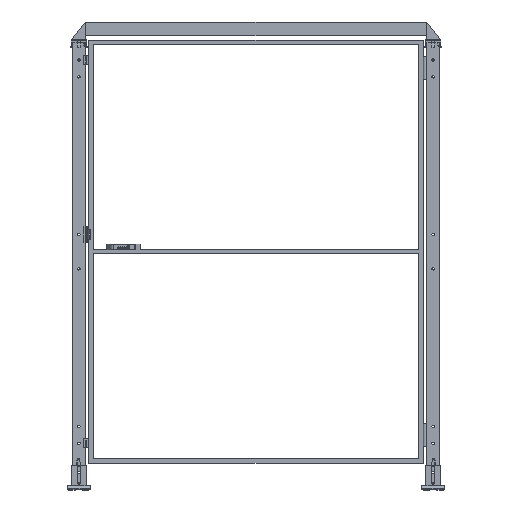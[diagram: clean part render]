
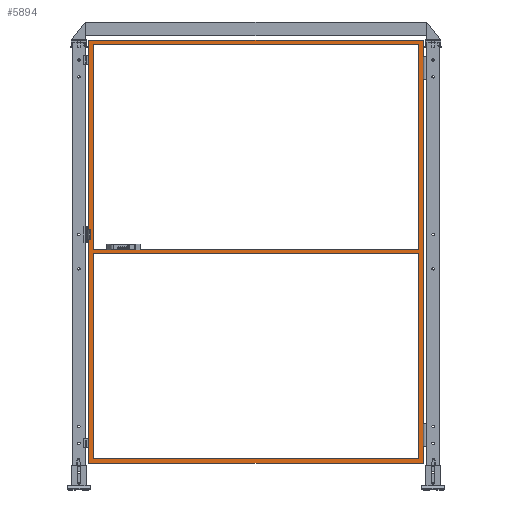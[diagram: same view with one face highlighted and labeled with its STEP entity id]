
A CAD part, top view. The second image highlights one B-rep face of the part: STEP entity #5894.
In plain terms, the highlighted planar face has unit normal (0, 0, 1).
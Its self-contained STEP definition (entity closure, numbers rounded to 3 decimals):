
#5894=ADVANCED_FACE('',(#12068,#12069,#12070),#12071,.F.);
#12068=FACE_BOUND('',#19807,.T.);
#12069=FACE_OUTER_BOUND('',#19808,.T.);
#12070=FACE_BOUND('',#19809,.T.);
#12071=PLANE('',#19810);
#19807=EDGE_LOOP('',(#37257,#37258,#37259,#37260));
#19808=EDGE_LOOP('',(#37261,#37262,#37263,#37264));
#19809=EDGE_LOOP('',(#37265,#37266,#37267,#37268));
#19810=AXIS2_PLACEMENT_3D('',#37269,#37270,#37271);
#37257=ORIENTED_EDGE('',*,*,#44399,.F.);
#37258=ORIENTED_EDGE('',*,*,#44405,.T.);
#37259=ORIENTED_EDGE('',*,*,#44427,.T.);
#37260=ORIENTED_EDGE('',*,*,#44432,.F.);
#37261=ORIENTED_EDGE('',*,*,#44443,.F.);
#37262=ORIENTED_EDGE('',*,*,#44437,.F.);
#37263=ORIENTED_EDGE('',*,*,#44407,.F.);
#37264=ORIENTED_EDGE('',*,*,#44441,.F.);
#37265=ORIENTED_EDGE('',*,*,#44429,.F.);
#37266=ORIENTED_EDGE('',*,*,#44424,.F.);
#37267=ORIENTED_EDGE('',*,*,#44435,.T.);
#37268=ORIENTED_EDGE('',*,*,#44444,.T.);
#37269=CARTESIAN_POINT('',(765.0,130.0,10.0));
#37270=DIRECTION('',(0.,0.0,-1.0));
#37271=DIRECTION('',(-1.0,0.0,0.));
#44399=EDGE_CURVE('',#54881,#54884,#54885,.T.);
#44405=EDGE_CURVE('',#54881,#54892,#54894,.T.);
#44407=EDGE_CURVE('',#54896,#54897,#54898,.T.);
#44424=EDGE_CURVE('',#54924,#54922,#54926,.T.);
#44427=EDGE_CURVE('',#54892,#54928,#54930,.T.);
#44429=EDGE_CURVE('',#54922,#54932,#54933,.T.);
#44432=EDGE_CURVE('',#54884,#54928,#54936,.T.);
#44435=EDGE_CURVE('',#54924,#54938,#54940,.T.);
#44437=EDGE_CURVE('',#54897,#54942,#54943,.T.);
#44441=EDGE_CURVE('',#54946,#54896,#54948,.T.);
#44443=EDGE_CURVE('',#54942,#54946,#54950,.T.);
#44444=EDGE_CURVE('',#54938,#54932,#54951,.T.);
#54881=VERTEX_POINT('',#70715);
#54884=VERTEX_POINT('',#70719);
#54885=LINE('',#70720,#70721);
#54892=VERTEX_POINT('',#70731);
#54894=LINE('',#70734,#70735);
#54896=VERTEX_POINT('',#70737);
#54897=VERTEX_POINT('',#70738);
#54898=LINE('',#70739,#70740);
#54922=VERTEX_POINT('',#70776);
#54924=VERTEX_POINT('',#70779);
#54926=LINE('',#70782,#70783);
#54928=VERTEX_POINT('',#70785);
#54930=LINE('',#70788,#70789);
#54932=VERTEX_POINT('',#70791);
#54933=LINE('',#70792,#70793);
#54936=LINE('',#70797,#70798);
#54938=VERTEX_POINT('',#70800);
#54940=LINE('',#70803,#70804);
#54942=VERTEX_POINT('',#70806);
#54943=LINE('',#70807,#70808);
#54946=VERTEX_POINT('',#70812);
#54948=LINE('',#70815,#70816);
#54950=LINE('',#70818,#70819);
#54951=LINE('',#70820,#70821);
#70715=CARTESIAN_POINT('',(1495.0,2000.0,10.));
#70719=CARTESIAN_POINT('',(35.,2000.0,10.0));
#70720=CARTESIAN_POINT('',(765.0,2000.0,10.0));
#70721=VECTOR('',#78397,1.0);
#70731=CARTESIAN_POINT('',(1495.0,1080.0,10.));
#70734=CARTESIAN_POINT('',(1495.0,1070.0,10.));
#70735=VECTOR('',#78402,1.0);
#70737=CARTESIAN_POINT('',(15.0,120.0,10.0));
#70738=CARTESIAN_POINT('',(15.,2020.0,10.0));
#70739=CARTESIAN_POINT('',(15.0,130.0,10.0));
#70740=VECTOR('',#78403,1.0);
#70776=CARTESIAN_POINT('',(35.,1060.0,10.0));
#70779=CARTESIAN_POINT('',(1495.0,1060.0,10.));
#70782=CARTESIAN_POINT('',(765.0,1060.0,10.0));
#70783=VECTOR('',#78418,1.0);
#70785=CARTESIAN_POINT('',(35.0,1080.0,10.0));
#70788=CARTESIAN_POINT('',(765.0,1080.0,10.0));
#70789=VECTOR('',#78420,1.0);
#70791=CARTESIAN_POINT('',(35.,140.0,10.0));
#70792=CARTESIAN_POINT('',(35.,1070.0,10.0));
#70793=VECTOR('',#78421,1.0);
#70797=CARTESIAN_POINT('',(35.,1070.0,10.0));
#70798=VECTOR('',#78423,1.0);
#70800=CARTESIAN_POINT('',(1495.0,140.0,10.));
#70803=CARTESIAN_POINT('',(1495.0,1070.0,10.));
#70804=VECTOR('',#78425,1.0);
#70806=CARTESIAN_POINT('',(1515.0,2020.0,10.));
#70807=CARTESIAN_POINT('',(25.,2020.0,10.0));
#70808=VECTOR('',#78426,1.0);
#70812=CARTESIAN_POINT('',(1515.0,120.0,10.));
#70815=CARTESIAN_POINT('',(765.0,120.0,10.0));
#70816=VECTOR('',#78429,1.0);
#70818=CARTESIAN_POINT('',(1515.0,1070.0,10.));
#70819=VECTOR('',#78430,1.0);
#70820=CARTESIAN_POINT('',(765.0,140.0,10.0));
#70821=VECTOR('',#78431,1.0);
#78397=DIRECTION('',(-1.0,0.0,0.));
#78402=DIRECTION('',(0.,-1.0,0.));
#78403=DIRECTION('',(0.0,1.0,0.0));
#78418=DIRECTION('',(-1.0,0.0,0.));
#78420=DIRECTION('',(-1.0,0.0,0.));
#78421=DIRECTION('',(0.,-1.0,0.));
#78423=DIRECTION('',(0.,-1.0,0.));
#78425=DIRECTION('',(0.,-1.0,0.));
#78426=DIRECTION('',(1.0,0.,0.));
#78429=DIRECTION('',(-1.0,0.0,0.));
#78430=DIRECTION('',(0.,-1.0,0.));
#78431=DIRECTION('',(-1.0,0.0,0.));
